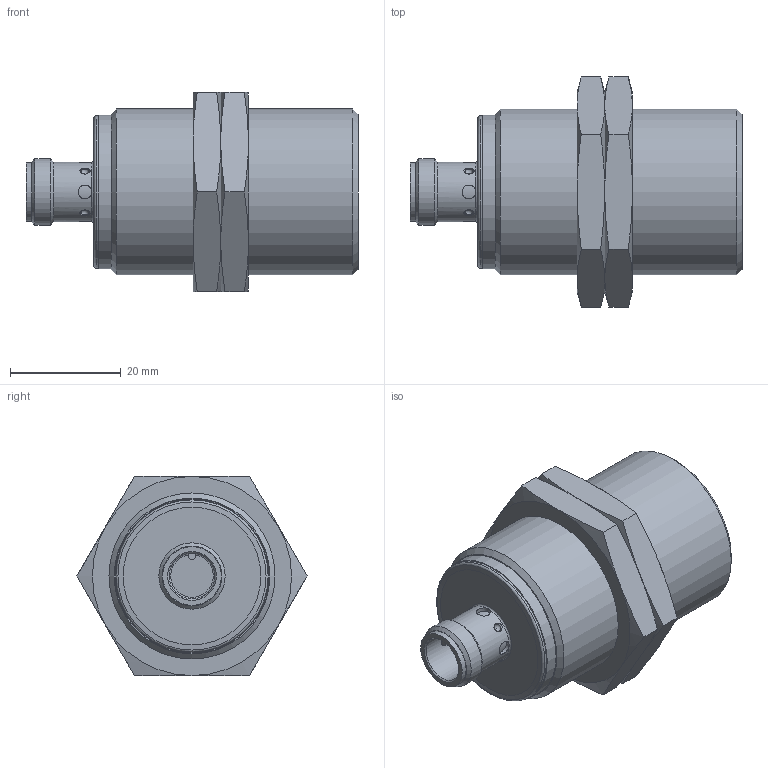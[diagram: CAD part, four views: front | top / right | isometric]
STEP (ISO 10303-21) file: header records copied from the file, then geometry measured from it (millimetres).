
FILE_DESCRIPTION( ( 'STEP AP203' ), '1' );
FILE_NAME( '//expscmdclustefs.cadenas.external/client_exchange/iodir/jobs/output/wkb81176644_no0/STEP/IIS226_2_03.stp', ' ', ( ' ' ), ( ' ' ), 'PSStep 15.0.47', 'PARTsolutions', ' ' );
FILE_SCHEMA( ( 'CONFIG_CONTROL_DESIGN' ) );
Length unit declared in the file: millimetre
Products named in the file (3): IIS226; _IIS226_part1; _SW36-L5-M30x1.5
Assembly tree (3 placements, depth 2):
  IIS226
    _IIS226_part1
    _SW36-L5-M30x1.5  x2
Bounding box: 60 x 41.57 x 36 mm (x, y, z)
Volume: 38752 mm3; surface area: 10460.1 mm2
Topology: 3 solids, 3 shells, 74 faces, 170 edges, 108 vertices
Faces by surface type: plane 27, cylinder 20, cone 14, torus 9, sphere 4
Full cylindrical faces by diameter (mm): 2.5 x4, 8.3 x1, 10.6 x1, 10.8 x1, 12 x1, 27.29 x1, 27.32 x1, 27.5 x1, 27.8 x1, 28.376 x2, 30 x1
Entity records: 1974 total; most frequent: CARTESIAN_POINT 746, DIRECTION 230, ORIENTED_EDGE 174, AXIS2_PLACEMENT_3D 108, EDGE_LOOP 105, EDGE_CURVE 87, FACE_OUTER_BOUND 83, VERTEX_POINT 76
